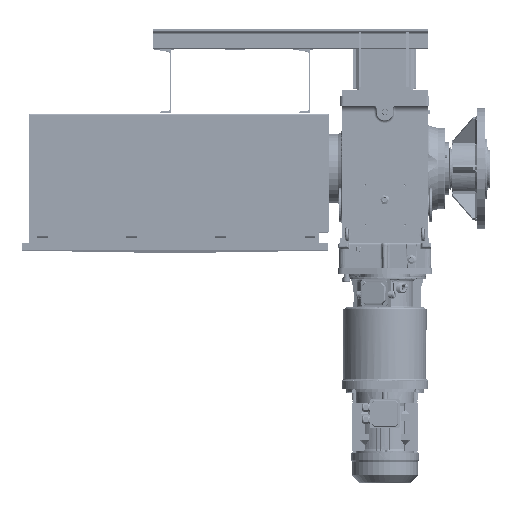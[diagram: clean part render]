
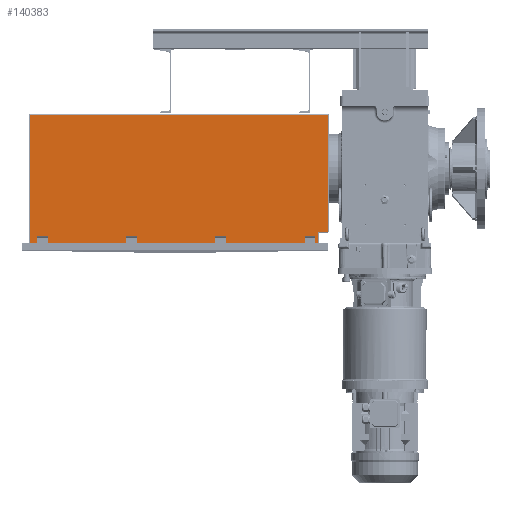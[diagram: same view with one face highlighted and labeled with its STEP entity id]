
A CAD part, top view. The second image highlights one B-rep face of the part: STEP entity #140383.
In plain terms, the highlighted planar face has unit normal (0, 0, 1).
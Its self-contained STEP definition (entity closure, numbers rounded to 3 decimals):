
#9640=FACE_OUTER_BOUND('',#17666,.T.);
#17666=EDGE_LOOP('',(#90327,#90328,#90329,#90330,#90331,#90332,#90333,#90334,
#90335,#90336,#90337,#90338,#90339,#90340,#90341,#90342,#90343,#90344,#90345,
#90346,#90347,#90348));
#26816=LINE('',#196841,#38196);
#26838=LINE('',#196896,#38218);
#26839=LINE('',#196902,#38219);
#26858=LINE('',#196940,#38238);
#26859=LINE('',#196945,#38239);
#26918=LINE('',#197118,#38298);
#26938=LINE('',#197170,#38318);
#26939=LINE('',#197173,#38319);
#26940=LINE('',#197176,#38320);
#26990=LINE('',#197314,#38370);
#27010=LINE('',#197366,#38390);
#27011=LINE('',#197369,#38391);
#27012=LINE('',#197372,#38392);
#27028=LINE('',#197414,#38408);
#27047=LINE('',#197464,#38427);
#27048=LINE('',#197467,#38428);
#27049=LINE('',#197470,#38429);
#27603=LINE('',#200162,#38983);
#27632=LINE('',#200229,#39012);
#27633=LINE('',#200231,#39013);
#27641=LINE('',#200246,#39021);
#27642=LINE('',#200247,#39022);
#38196=VECTOR('',#160472,32.647);
#38218=VECTOR('',#160530,40.);
#38219=VECTOR('',#160537,32.647);
#38238=VECTOR('',#160560,300.);
#38239=VECTOR('',#160567,9.984);
#38298=VECTOR('',#160730,32.647);
#38318=VECTOR('',#160786,40.);
#38319=VECTOR('',#160791,32.647);
#38320=VECTOR('',#160794,300.);
#38370=VECTOR('',#160930,32.647);
#38390=VECTOR('',#160986,40.);
#38391=VECTOR('',#160991,32.647);
#38392=VECTOR('',#160994,300.);
#38408=VECTOR('',#161032,32.647);
#38427=VECTOR('',#161085,40.);
#38428=VECTOR('',#161090,32.647);
#38429=VECTOR('',#161093,28.016);
#38983=VECTOR('',#162771,448.016);
#39012=VECTOR('',#162838,46.032);
#39013=VECTOR('',#162841,40.);
#39021=VECTOR('',#162857,1138.);
#39022=VECTOR('',#162858,494.048);
#54554=VERTEX_POINT('',#196825);
#54561=VERTEX_POINT('',#196839);
#54576=VERTEX_POINT('',#196894);
#54577=VERTEX_POINT('',#196899);
#54595=VERTEX_POINT('',#196939);
#54596=VERTEX_POINT('',#196943);
#54652=VERTEX_POINT('',#197104);
#54658=VERTEX_POINT('',#197116);
#54672=VERTEX_POINT('',#197168);
#54673=VERTEX_POINT('',#197175);
#54712=VERTEX_POINT('',#197300);
#54718=VERTEX_POINT('',#197312);
#54732=VERTEX_POINT('',#197364);
#54733=VERTEX_POINT('',#197371);
#54742=VERTEX_POINT('',#197400);
#54748=VERTEX_POINT('',#197412);
#54762=VERTEX_POINT('',#197462);
#54763=VERTEX_POINT('',#197469);
#55362=VERTEX_POINT('',#200159);
#55363=VERTEX_POINT('',#200161);
#55382=VERTEX_POINT('',#200227);
#55385=VERTEX_POINT('',#200245);
#67821=EDGE_CURVE('',#54554,#54561,#26816,.T.);
#67849=EDGE_CURVE('',#54561,#54576,#26838,.T.);
#67851=EDGE_CURVE('',#54576,#54577,#26839,.T.);
#67870=EDGE_CURVE('',#54595,#54554,#26858,.T.);
#67873=EDGE_CURVE('',#54577,#54596,#26859,.T.);
#67960=EDGE_CURVE('',#54652,#54658,#26918,.T.);
#67986=EDGE_CURVE('',#54658,#54672,#26938,.T.);
#67987=EDGE_CURVE('',#54672,#54595,#26939,.T.);
#67988=EDGE_CURVE('',#54673,#54652,#26940,.T.);
#68058=EDGE_CURVE('',#54712,#54718,#26990,.T.);
#68084=EDGE_CURVE('',#54718,#54732,#27010,.T.);
#68085=EDGE_CURVE('',#54732,#54673,#27011,.T.);
#68086=EDGE_CURVE('',#54733,#54712,#27012,.T.);
#68108=EDGE_CURVE('',#54742,#54748,#27028,.T.);
#68133=EDGE_CURVE('',#54748,#54762,#27047,.T.);
#68134=EDGE_CURVE('',#54762,#54733,#27048,.T.);
#68135=EDGE_CURVE('',#54763,#54742,#27049,.T.);
#69003=EDGE_CURVE('',#55362,#55363,#27603,.T.);
#69039=EDGE_CURVE('',#54596,#55382,#27632,.T.);
#69040=EDGE_CURVE('',#55382,#55363,#27633,.T.);
#69048=EDGE_CURVE('',#55385,#55362,#27641,.T.);
#69049=EDGE_CURVE('',#54763,#55385,#27642,.T.);
#90327=ORIENTED_EDGE('',*,*,#67851,.T.);
#90328=ORIENTED_EDGE('',*,*,#67873,.T.);
#90329=ORIENTED_EDGE('',*,*,#69039,.T.);
#90330=ORIENTED_EDGE('',*,*,#69040,.T.);
#90331=ORIENTED_EDGE('',*,*,#69003,.F.);
#90332=ORIENTED_EDGE('',*,*,#69048,.F.);
#90333=ORIENTED_EDGE('',*,*,#69049,.F.);
#90334=ORIENTED_EDGE('',*,*,#68135,.T.);
#90335=ORIENTED_EDGE('',*,*,#68108,.T.);
#90336=ORIENTED_EDGE('',*,*,#68133,.T.);
#90337=ORIENTED_EDGE('',*,*,#68134,.T.);
#90338=ORIENTED_EDGE('',*,*,#68086,.T.);
#90339=ORIENTED_EDGE('',*,*,#68058,.T.);
#90340=ORIENTED_EDGE('',*,*,#68084,.T.);
#90341=ORIENTED_EDGE('',*,*,#68085,.T.);
#90342=ORIENTED_EDGE('',*,*,#67988,.T.);
#90343=ORIENTED_EDGE('',*,*,#67960,.T.);
#90344=ORIENTED_EDGE('',*,*,#67986,.T.);
#90345=ORIENTED_EDGE('',*,*,#67987,.T.);
#90346=ORIENTED_EDGE('',*,*,#67870,.T.);
#90347=ORIENTED_EDGE('',*,*,#67821,.T.);
#90348=ORIENTED_EDGE('',*,*,#67849,.T.);
#128102=PLANE('',#148631);
#140383=ADVANCED_FACE('',(#9640),#128102,.T.);
#148631=AXIS2_PLACEMENT_3D('',#200244,#162855,#162856);
#160472=DIRECTION('',(0.,1.,0.));
#160530=DIRECTION('',(1.,0.,0.));
#160537=DIRECTION('',(0.,-1.,0.));
#160560=DIRECTION('',(1.,0.,0.));
#160567=DIRECTION('',(1.,0.,0.));
#160730=DIRECTION('',(0.,1.,0.));
#160786=DIRECTION('',(1.,0.,0.));
#160791=DIRECTION('',(0.,-1.,0.));
#160794=DIRECTION('',(1.,0.,0.));
#160930=DIRECTION('',(0.,1.,0.));
#160986=DIRECTION('',(1.,0.,0.));
#160991=DIRECTION('',(0.,-1.,0.));
#160994=DIRECTION('',(1.,0.,0.));
#161032=DIRECTION('',(0.,1.,0.));
#161085=DIRECTION('',(1.,0.,0.));
#161090=DIRECTION('',(0.,-1.,0.));
#161093=DIRECTION('',(1.,0.,0.));
#162771=DIRECTION('',(0.,-1.,0.));
#162838=DIRECTION('',(0.,1.,0.));
#162841=DIRECTION('',(1.,0.,0.));
#162855=DIRECTION('center_axis',(0.,0.,
1.));
#162856=DIRECTION('ref_axis',(0.,-1.,0.));
#162857=DIRECTION('',(1.,0.,0.));
#162858=DIRECTION('',(0.,1.,0.));
#196825=CARTESIAN_POINT('',(-434.673,-498.787,676.738));
#196839=CARTESIAN_POINT('',(-434.673,-466.14,676.738));
#196841=CARTESIAN_POINT('',(-434.673,-365.385,676.738));
#196894=CARTESIAN_POINT('',(-394.673,-466.14,676.738));
#196896=CARTESIAN_POINT('',(-664.181,-466.14,676.738));
#196899=CARTESIAN_POINT('',(-394.673,-498.787,676.738));
#196902=CARTESIAN_POINT('',(-394.673,-365.385,676.738));
#196939=CARTESIAN_POINT('',(-734.673,-498.787,676.738));
#196940=CARTESIAN_POINT('',(-1198.19,-498.787,676.738));
#196943=CARTESIAN_POINT('',(-384.69,-498.787,676.738));
#196945=CARTESIAN_POINT('',(-1198.19,-498.787,676.738));
#197104=CARTESIAN_POINT('',(-774.673,-498.787,676.738));
#197116=CARTESIAN_POINT('',(-774.673,-466.14,676.738));
#197118=CARTESIAN_POINT('',(-774.673,-365.385,676.738));
#197168=CARTESIAN_POINT('',(-734.673,-466.14,676.738));
#197170=CARTESIAN_POINT('',(-834.181,-466.14,676.738));
#197173=CARTESIAN_POINT('',(-734.673,-365.385,676.738));
#197175=CARTESIAN_POINT('',(-1074.673,-498.787,676.738));
#197176=CARTESIAN_POINT('',(-1198.19,-498.787,676.738));
#197300=CARTESIAN_POINT('',(-1114.673,-498.787,676.738));
#197312=CARTESIAN_POINT('',(-1114.673,-466.14,676.738));
#197314=CARTESIAN_POINT('',(-1114.673,-365.385,676.738));
#197364=CARTESIAN_POINT('',(-1074.673,-466.14,676.738));
#197366=CARTESIAN_POINT('',(-1004.181,-466.14,676.738));
#197369=CARTESIAN_POINT('',(-1074.673,-365.385,676.738));
#197371=CARTESIAN_POINT('',(-1414.673,-498.787,676.738));
#197372=CARTESIAN_POINT('',(-1198.19,-498.787,676.738));
#197400=CARTESIAN_POINT('',(-1454.673,-498.787,676.738));
#197412=CARTESIAN_POINT('',(-1454.673,-466.14,676.738));
#197414=CARTESIAN_POINT('',(-1454.673,-365.385,676.738));
#197462=CARTESIAN_POINT('',(-1414.673,-466.14,676.738));
#197464=CARTESIAN_POINT('',(-1174.181,-466.14,676.738));
#197467=CARTESIAN_POINT('',(-1414.673,-365.385,676.738));
#197469=CARTESIAN_POINT('',(-1482.69,-498.787,676.738));
#197470=CARTESIAN_POINT('',(-1198.19,-498.787,676.738));
#200159=CARTESIAN_POINT('',(-344.69,-4.739,676.738));
#200161=CARTESIAN_POINT('',(-344.69,-452.755,676.738));
#200162=CARTESIAN_POINT('',(-344.69,-2.755,676.738));
#200227=CARTESIAN_POINT('',(-384.69,-452.755,676.738));
#200229=CARTESIAN_POINT('',(-384.69,-377.755,676.738));
#200231=CARTESIAN_POINT('',(-649.19,-452.755,676.738));
#200244=CARTESIAN_POINT('Origin',(-913.69,-252.755,676.738));
#200245=CARTESIAN_POINT('',(-1482.69,-4.739,676.738));
#200246=CARTESIAN_POINT('',(-344.69,-4.739,676.738));
#200247=CARTESIAN_POINT('',(-1482.69,-502.755,676.738));
